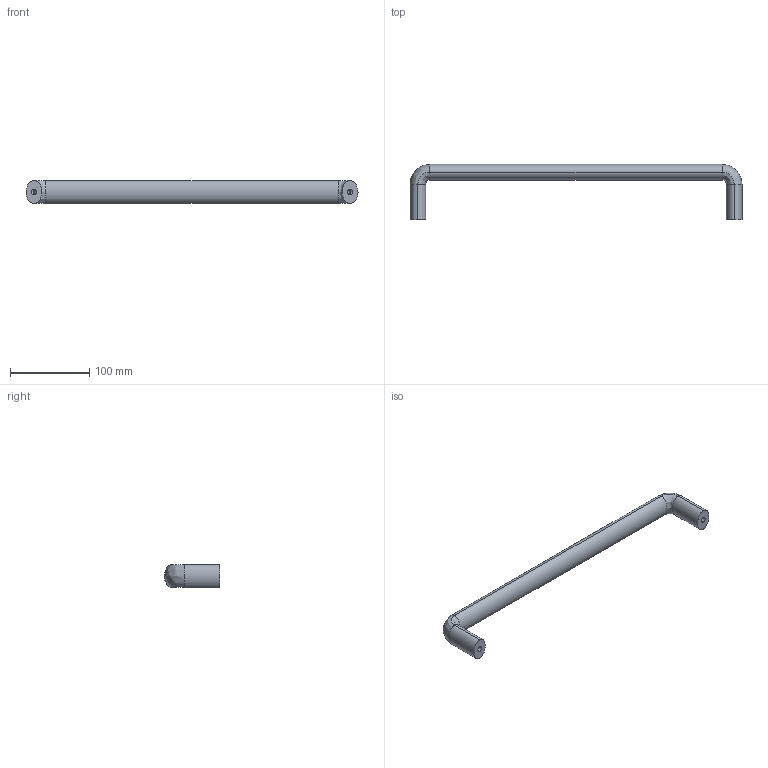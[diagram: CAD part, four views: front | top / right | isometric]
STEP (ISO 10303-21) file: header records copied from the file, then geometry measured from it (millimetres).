
FILE_DESCRIPTION (( 'STEP AP203' ), '1' );
FILE_NAME ('SK4-8017-6.STEP', '2018-11-02T05:35:04', ( 'admin' ), ( 'Microsoft' ), 'SwSTEP 2.0', 'SolidWorks 2015', '' );
FILE_SCHEMA (( 'CONFIG_CONTROL_DESIGN' ));
Length unit declared in the file: millimetre
Products named in the file (1): SK4-8017-6
Bounding box: 420 x 70 x 29 mm (x, y, z)
Volume: 229346.3 mm3; surface area: 41236.2 mm2
Topology: 1 solids, 1 shells, 20 faces, 42 edges, 22 vertices
Faces by surface type: bspline 10, cylinder 4, cone 4, plane 2
Entity records: 633 total; most frequent: CARTESIAN_POINT 219, ORIENTED_EDGE 76, DIRECTION 60, EDGE_CURVE 38, AXIS2_PLACEMENT_3D 23, EDGE_LOOP 22, VERTEX_POINT 22, ADVANCED_FACE 20
